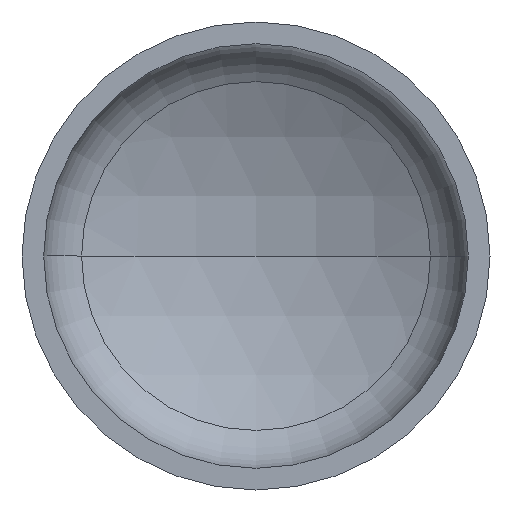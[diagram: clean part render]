
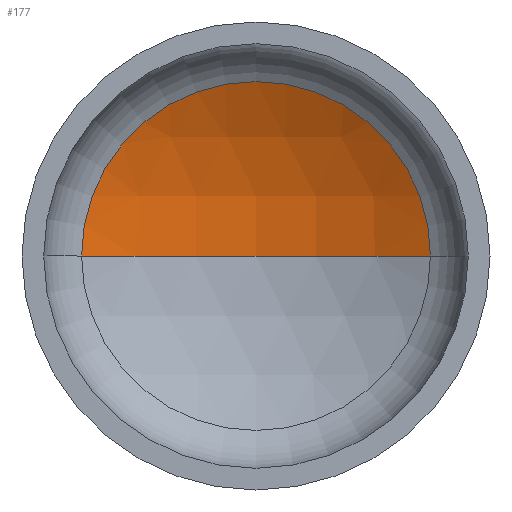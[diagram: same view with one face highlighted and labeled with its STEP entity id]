
A CAD part, front view. The second image highlights one B-rep face of the part: STEP entity #177.
In plain terms, the highlighted spherical face has radius 254 mm.
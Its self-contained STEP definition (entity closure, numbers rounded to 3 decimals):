
#2 = ORIENTED_EDGE ( 'NONE', *, *, #336, .T. ) ;
#5 = EDGE_LOOP ( 'NONE', ( #31, #2, #153 ) ) ;
#15 = DIRECTION ( 'NONE',  ( 0., 0., -1. ) ) ;
#18 = CARTESIAN_POINT ( 'NONE',  ( 0., -134.49, 0. ) ) ;
#31 = ORIENTED_EDGE ( 'NONE', *, *, #352, .F. ) ;
#37 = AXIS2_PLACEMENT_3D ( 'NONE', #330, #261, #188 ) ;
#46 = VERTEX_POINT ( 'NONE', #365 ) ;
#47 = AXIS2_PLACEMENT_3D ( 'NONE', #111, #128, #273 ) ;
#50 = AXIS2_PLACEMENT_3D ( 'NONE', #168, #308, #173 ) ;
#80 = VERTEX_POINT ( 'NONE', #246 ) ;
#108 = AXIS2_PLACEMENT_3D ( 'NONE', #18, #15, #265 ) ;
#111 = CARTESIAN_POINT ( 'NONE',  ( 0., -134.49, 0. ) ) ;
#116 = VERTEX_POINT ( 'NONE', #227 ) ;
#128 = DIRECTION ( 'NONE',  ( 0., 0., -1. ) ) ;
#142 = CIRCLE ( 'NONE', #37, 254. ) ;
#153 = ORIENTED_EDGE ( 'NONE', *, *, #333, .T. ) ;
#157 = CIRCLE ( 'NONE', #47, 254. ) ;
#168 = CARTESIAN_POINT ( 'NONE',  ( 0., 88.993, 0. ) ) ;
#173 = DIRECTION ( 'NONE',  ( 1., 0., 0. ) ) ;
#177 = ADVANCED_FACE ( 'NONE', ( #191 ), #253, .F. ) ;
#188 = DIRECTION ( 'NONE',  ( 1., 0., 0. ) ) ;
#191 = FACE_OUTER_BOUND ( 'NONE', #5, .T. ) ;
#227 = CARTESIAN_POINT ( 'NONE',  ( 0., 119.51, 0. ) ) ;
#232 = CIRCLE ( 'NONE', #50, 120.712 ) ;
#246 = CARTESIAN_POINT ( 'NONE',  ( -120.712, 88.993, 0. ) ) ;
#253 = SPHERICAL_SURFACE ( 'NONE', #108, 254. ) ;
#261 = DIRECTION ( 'NONE',  ( 0., 0., 1. ) ) ;
#265 = DIRECTION ( 'NONE',  ( -1., 0., 0. ) ) ;
#273 = DIRECTION ( 'NONE',  ( -1., 0., 0. ) ) ;
#308 = DIRECTION ( 'NONE',  ( 0., -1., 0. ) ) ;
#330 = CARTESIAN_POINT ( 'NONE',  ( 0., -134.49, 0. ) ) ;
#333 = EDGE_CURVE ( 'NONE', #46, #80, #232, .T. ) ;
#336 = EDGE_CURVE ( 'NONE', #116, #46, #157, .T. ) ;
#352 = EDGE_CURVE ( 'NONE', #116, #80, #142, .T. ) ;
#365 = CARTESIAN_POINT ( 'NONE',  ( 120.712, 88.993, 0. ) ) ;
